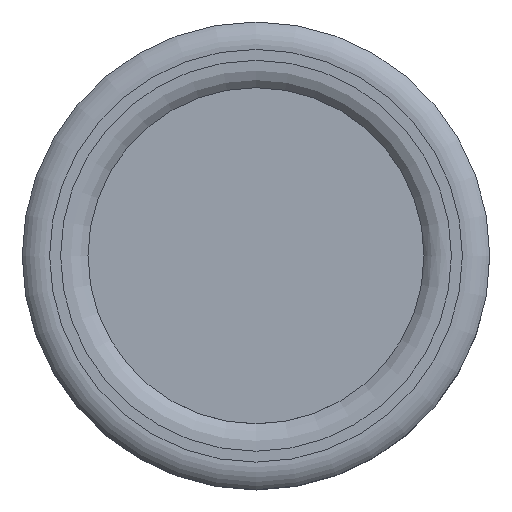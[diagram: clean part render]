
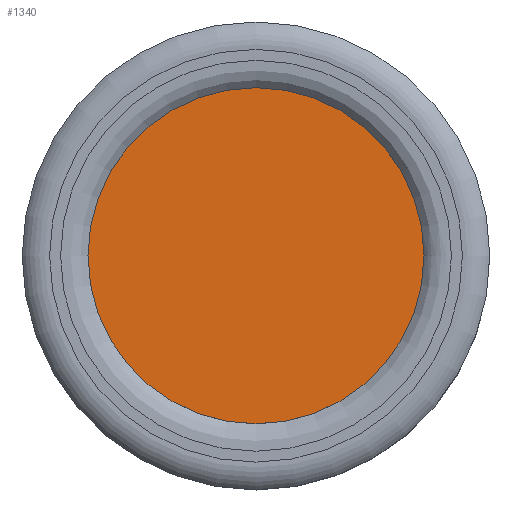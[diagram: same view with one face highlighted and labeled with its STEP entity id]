
A CAD part, top view. The second image highlights one B-rep face of the part: STEP entity #1340.
In plain terms, the highlighted planar face has unit normal (0, 0, 1).
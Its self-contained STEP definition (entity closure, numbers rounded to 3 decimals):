
#1340=ADVANCED_FACE('', (#1350), #1360, .T.);
#4380=AXIS2_PLACEMENT_3D('Ax2Pl3d', #4390, #4400, #4410);
#4700=AXIS2_PLACEMENT_3D('Ax2Pl3d', #4710, #4720, #4730);
#4390=CARTESIAN_POINT('HicPkt', (0.,0.,56.));
#17480=CARTESIAN_POINT('', (11.5,0.,56.));
#4710=CARTESIAN_POINT('HicPkt', (11.5,0.,56.));
#17960=CIRCLE('Circle', #4380, 11.5);
#4400=DIRECTION('Axis', (0.,0.,-1.));
#4410=DIRECTION('RefDirection', (-1.,0.,0.));
#4720=DIRECTION('Axis', (0.,0.,1.));
#4730=DIRECTION('RefDirection', (1.,0.,0.));
#18960=EDGE_CURVE('', #18970, #18970, #17960, .T.);
#20640=EDGE_LOOP('Edge_loop', (#20650));
#1350=FACE_OUTER_BOUND('Face_outer_bound', #20640, .T.);
#20650=ORIENTED_EDGE('', *, *, #18960, .F.);
#1360=PLANE('Plane', #4700);
#18970=VERTEX_POINT('', #17480);
